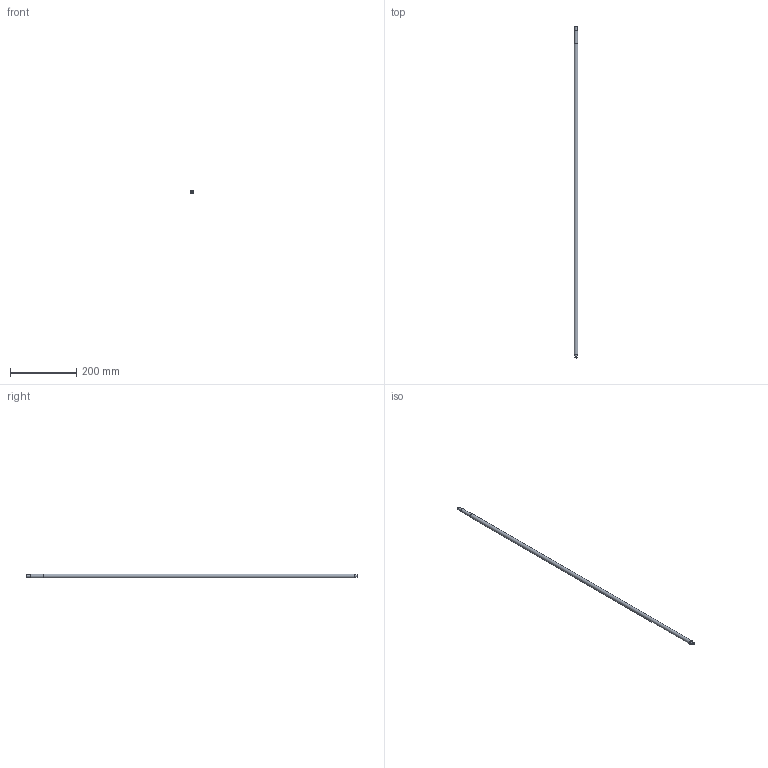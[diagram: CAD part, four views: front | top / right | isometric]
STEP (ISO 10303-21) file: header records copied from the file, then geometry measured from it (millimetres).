
FILE_DESCRIPTION(/* description */ (''),/* implementation_level */ '2;1');
FILE_NAME(/* name */ 'C:\Users\David\Desktop\stepFiles\Profilfuehrung\KUS1204x1000.stp',/* time_stamp */ '2018-06-24T15:05:15+02:00',/* author */ ('David'),/* organization */ (''),/* preprocessor_version */ 'ST-DEVELOPER v17',/* originating_system */ 'Autodesk Inventor 2019',/* authorisation */ '');
FILE_SCHEMA (('AUTOMOTIVE_DESIGN { 1 0 10303 214 3 1 1 }'));
Length unit declared in the file: millimetre
Products named in the file (1): SFU1204xvariabel
Bounding box: 12 x 1000 x 12 mm (x, y, z)
Volume: 110168.4 mm3; surface area: 37359.4 mm2
Topology: 1 solids, 1 shells, 15 faces, 34 edges, 26 vertices
Faces by surface type: plane 7, cylinder 6, cone 2
Full cylindrical faces by diameter (mm): 7.6 x1, 8 x3, 10 x1, 12 x1
Entity records: 493 total; most frequent: DIRECTION 92, CARTESIAN_POINT 76, ORIENTED_EDGE 68, AXIS2_PLACEMENT_3D 42, EDGE_CURVE 34, CIRCLE 26, VERTEX_POINT 26, EDGE_LOOP 20
